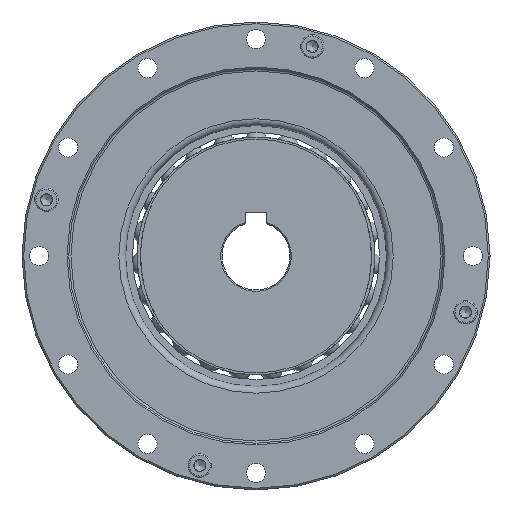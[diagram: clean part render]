
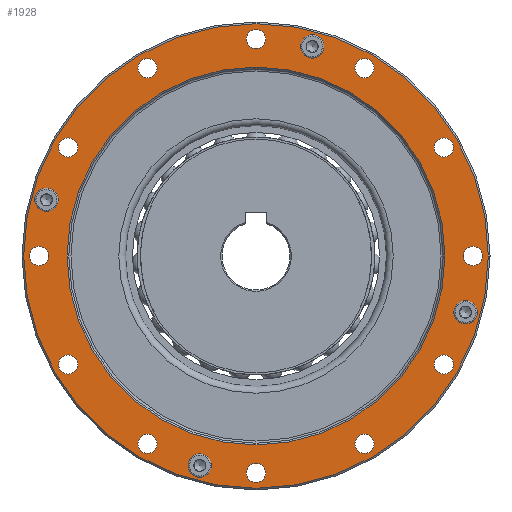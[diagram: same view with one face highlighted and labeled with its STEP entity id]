
A CAD part, left-side view. The second image highlights one B-rep face of the part: STEP entity #1928.
In plain terms, the highlighted planar face has unit normal (-1, 0, 0).
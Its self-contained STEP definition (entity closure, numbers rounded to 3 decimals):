
#1732=PLANE('',#9674);
#1928=ADVANCED_FACE('',(#2748,#2749,#2750,#2751,#2752,#2753,#2754,#2755,
#2756,#2757,#2758,#2759,#2760,#2761,#2762,#2763,#2764,#2765),#1732,.T.);
#2748=FACE_BOUND('',#3497,.T.);
#2749=FACE_BOUND('',#3498,.T.);
#2750=FACE_BOUND('',#3499,.T.);
#2751=FACE_BOUND('',#3500,.T.);
#2752=FACE_BOUND('',#3501,.T.);
#2753=FACE_BOUND('',#3502,.T.);
#2754=FACE_BOUND('',#3503,.T.);
#2755=FACE_BOUND('',#3504,.T.);
#2756=FACE_BOUND('',#3505,.T.);
#2757=FACE_BOUND('',#3506,.T.);
#2758=FACE_BOUND('',#3507,.T.);
#2759=FACE_BOUND('',#3508,.T.);
#2760=FACE_BOUND('',#3509,.T.);
#2761=FACE_BOUND('',#3510,.T.);
#2762=FACE_BOUND('',#3511,.T.);
#2763=FACE_BOUND('',#3512,.T.);
#2764=FACE_BOUND('',#3513,.T.);
#2765=FACE_BOUND('',#3514,.T.);
#3497=EDGE_LOOP('',(#4486));
#3498=EDGE_LOOP('',(#4487));
#3499=EDGE_LOOP('',(#4488));
#3500=EDGE_LOOP('',(#4489));
#3501=EDGE_LOOP('',(#4490));
#3502=EDGE_LOOP('',(#4491));
#3503=EDGE_LOOP('',(#4492));
#3504=EDGE_LOOP('',(#4493));
#3505=EDGE_LOOP('',(#4494));
#3506=EDGE_LOOP('',(#4495));
#3507=EDGE_LOOP('',(#4496));
#3508=EDGE_LOOP('',(#4497));
#3509=EDGE_LOOP('',(#4498));
#3510=EDGE_LOOP('',(#4499));
#3511=EDGE_LOOP('',(#4500));
#3512=EDGE_LOOP('',(#4501));
#3513=EDGE_LOOP('',(#4502));
#3514=EDGE_LOOP('',(#4503));
#4486=ORIENTED_EDGE('',*,*,#7651,.F.);
#4487=ORIENTED_EDGE('',*,*,#7652,.F.);
#4488=ORIENTED_EDGE('',*,*,#7653,.F.);
#4489=ORIENTED_EDGE('',*,*,#7654,.F.);
#4490=ORIENTED_EDGE('',*,*,#7655,.F.);
#4491=ORIENTED_EDGE('',*,*,#7656,.F.);
#4492=ORIENTED_EDGE('',*,*,#7657,.F.);
#4493=ORIENTED_EDGE('',*,*,#7658,.F.);
#4494=ORIENTED_EDGE('',*,*,#7659,.F.);
#4495=ORIENTED_EDGE('',*,*,#7660,.F.);
#4496=ORIENTED_EDGE('',*,*,#7661,.F.);
#4497=ORIENTED_EDGE('',*,*,#7662,.F.);
#4498=ORIENTED_EDGE('',*,*,#7663,.F.);
#4499=ORIENTED_EDGE('',*,*,#7664,.F.);
#4500=ORIENTED_EDGE('',*,*,#7665,.F.);
#4501=ORIENTED_EDGE('',*,*,#7666,.F.);
#4502=ORIENTED_EDGE('',*,*,#7667,.T.);
#4503=ORIENTED_EDGE('',*,*,#7668,.T.);
#6750=VERTEX_POINT('',#13596);
#6751=VERTEX_POINT('',#13598);
#6752=VERTEX_POINT('',#13600);
#6753=VERTEX_POINT('',#13602);
#6754=VERTEX_POINT('',#13604);
#6755=VERTEX_POINT('',#13606);
#6756=VERTEX_POINT('',#13608);
#6757=VERTEX_POINT('',#13610);
#6758=VERTEX_POINT('',#13612);
#6759=VERTEX_POINT('',#13614);
#6760=VERTEX_POINT('',#13616);
#6761=VERTEX_POINT('',#13618);
#6762=VERTEX_POINT('',#13620);
#6763=VERTEX_POINT('',#13622);
#6764=VERTEX_POINT('',#13624);
#6765=VERTEX_POINT('',#13626);
#6766=VERTEX_POINT('',#13628);
#6767=VERTEX_POINT('',#13630);
#7651=EDGE_CURVE('',#6750,#6750,#8879,.T.);
#7652=EDGE_CURVE('',#6751,#6751,#8880,.T.);
#7653=EDGE_CURVE('',#6752,#6752,#8881,.T.);
#7654=EDGE_CURVE('',#6753,#6753,#8882,.T.);
#7655=EDGE_CURVE('',#6754,#6754,#8883,.T.);
#7656=EDGE_CURVE('',#6755,#6755,#8884,.T.);
#7657=EDGE_CURVE('',#6756,#6756,#8885,.T.);
#7658=EDGE_CURVE('',#6757,#6757,#8886,.T.);
#7659=EDGE_CURVE('',#6758,#6758,#8887,.T.);
#7660=EDGE_CURVE('',#6759,#6759,#8888,.T.);
#7661=EDGE_CURVE('',#6760,#6760,#8889,.T.);
#7662=EDGE_CURVE('',#6761,#6761,#8890,.T.);
#7663=EDGE_CURVE('',#6762,#6762,#8891,.T.);
#7664=EDGE_CURVE('',#6763,#6763,#8892,.T.);
#7665=EDGE_CURVE('',#6764,#6764,#8893,.T.);
#7666=EDGE_CURVE('',#6765,#6765,#8894,.T.);
#7667=EDGE_CURVE('',#6766,#6766,#8895,.T.);
#7668=EDGE_CURVE('',#6767,#6767,#8896,.T.);
#8879=CIRCLE('',#9656,1.75);
#8880=CIRCLE('',#9657,1.75);
#8881=CIRCLE('',#9658,1.75);
#8882=CIRCLE('',#9659,1.75);
#8883=CIRCLE('',#9660,2.25);
#8884=CIRCLE('',#9661,2.25);
#8885=CIRCLE('',#9662,2.25);
#8886=CIRCLE('',#9663,2.25);
#8887=CIRCLE('',#9664,2.25);
#8888=CIRCLE('',#9665,2.25);
#8889=CIRCLE('',#9666,2.25);
#8890=CIRCLE('',#9667,2.25);
#8891=CIRCLE('',#9668,2.25);
#8892=CIRCLE('',#9669,2.25);
#8893=CIRCLE('',#9670,2.25);
#8894=CIRCLE('',#9671,2.25);
#8895=CIRCLE('',#9672,44.4);
#8896=CIRCLE('',#9673,54.6);
#9656=AXIS2_PLACEMENT_3D('',#13595,#10940,#10941);
#9657=AXIS2_PLACEMENT_3D('',#13597,#10942,#10943);
#9658=AXIS2_PLACEMENT_3D('',#13599,#10944,#10945);
#9659=AXIS2_PLACEMENT_3D('',#13601,#10946,#10947);
#9660=AXIS2_PLACEMENT_3D('',#13603,#10948,#10949);
#9661=AXIS2_PLACEMENT_3D('',#13605,#10950,#10951);
#9662=AXIS2_PLACEMENT_3D('',#13607,#10952,#10953);
#9663=AXIS2_PLACEMENT_3D('',#13609,#10954,#10955);
#9664=AXIS2_PLACEMENT_3D('',#13611,#10956,#10957);
#9665=AXIS2_PLACEMENT_3D('',#13613,#10958,#10959);
#9666=AXIS2_PLACEMENT_3D('',#13615,#10960,#10961);
#9667=AXIS2_PLACEMENT_3D('',#13617,#10962,#10963);
#9668=AXIS2_PLACEMENT_3D('',#13619,#10964,#10965);
#9669=AXIS2_PLACEMENT_3D('',#13621,#10966,#10967);
#9670=AXIS2_PLACEMENT_3D('',#13623,#10968,#10969);
#9671=AXIS2_PLACEMENT_3D('',#13625,#10970,#10971);
#9672=AXIS2_PLACEMENT_3D('',#13627,#10972,#10973);
#9673=AXIS2_PLACEMENT_3D('',#13629,#10974,#10975);
#9674=AXIS2_PLACEMENT_3D('',#13631,#10976,#10977);
#10940=DIRECTION('',(-1.,0.,0.));
#10941=DIRECTION('',(0.,0.5,0.866));
#10942=DIRECTION('',(-1.,0.,0.));
#10943=DIRECTION('',(0.,0.5,0.866));
#10944=DIRECTION('',(-1.,0.,0.));
#10945=DIRECTION('',(0.,0.5,0.866));
#10946=DIRECTION('',(-1.,0.,0.));
#10947=DIRECTION('',(0.,0.5,0.866));
#10948=DIRECTION('',(-1.,0.,0.));
#10949=DIRECTION('',(0.,0.5,0.866));
#10950=DIRECTION('',(-1.,0.,0.));
#10951=DIRECTION('',(0.,0.5,0.866));
#10952=DIRECTION('',(-1.,0.,0.));
#10953=DIRECTION('',(0.,0.5,0.866));
#10954=DIRECTION('',(-1.,0.,0.));
#10955=DIRECTION('',(0.,0.5,0.866));
#10956=DIRECTION('',(-1.,0.,0.));
#10957=DIRECTION('',(0.,0.5,0.866));
#10958=DIRECTION('',(-1.,0.,0.));
#10959=DIRECTION('',(0.,0.5,0.866));
#10960=DIRECTION('',(-1.,0.,0.));
#10961=DIRECTION('',(0.,0.5,0.866));
#10962=DIRECTION('',(-1.,0.,0.));
#10963=DIRECTION('',(0.,0.5,0.866));
#10964=DIRECTION('',(-1.,0.,0.));
#10965=DIRECTION('',(0.,0.5,0.866));
#10966=DIRECTION('',(-1.,0.,0.));
#10967=DIRECTION('',(0.,0.5,0.866));
#10968=DIRECTION('',(-1.,0.,0.));
#10969=DIRECTION('',(0.,0.5,0.866));
#10970=DIRECTION('',(-1.,0.,0.));
#10971=DIRECTION('',(0.,0.5,0.866));
#10972=DIRECTION('',(1.,0.,0.));
#10973=DIRECTION('',(0.,0.5,0.866));
#10974=DIRECTION('',(-1.,0.,0.));
#10975=DIRECTION('',(0.,0.5,0.866));
#10976=DIRECTION('',(-1.,0.,0.));
#10977=DIRECTION('',(0.,0.5,0.866));
#13595=CARTESIAN_POINT('',(-34.,13.2,-49.262));
#13596=CARTESIAN_POINT('',(-34.,14.075,-47.747));
#13597=CARTESIAN_POINT('',(-34.,-49.262,-13.2));
#13598=CARTESIAN_POINT('',(-34.,-48.387,-11.684));
#13599=CARTESIAN_POINT('',(-34.,-13.2,49.262));
#13600=CARTESIAN_POINT('',(-34.,-12.325,50.778));
#13601=CARTESIAN_POINT('',(-34.,49.262,13.2));
#13602=CARTESIAN_POINT('',(-34.,50.137,14.715));
#13603=CARTESIAN_POINT('',(-34.,25.5,-44.167));
#13604=CARTESIAN_POINT('',(-34.,26.625,-42.219));
#13605=CARTESIAN_POINT('',(-34.,0.,-51.));
#13606=CARTESIAN_POINT('',(-34.,1.125,-49.051));
#13607=CARTESIAN_POINT('',(-34.,-25.5,-44.167));
#13608=CARTESIAN_POINT('',(-34.,-24.375,-42.219));
#13609=CARTESIAN_POINT('',(-34.,-44.167,-25.5));
#13610=CARTESIAN_POINT('',(-34.,-43.042,-23.551));
#13611=CARTESIAN_POINT('',(-34.,-51.,0.));
#13612=CARTESIAN_POINT('',(-34.,-49.875,1.949));
#13613=CARTESIAN_POINT('',(-34.,-44.167,25.5));
#13614=CARTESIAN_POINT('',(-34.,-43.042,27.449));
#13615=CARTESIAN_POINT('',(-34.,-25.5,44.167));
#13616=CARTESIAN_POINT('',(-34.,-24.375,46.116));
#13617=CARTESIAN_POINT('',(-34.,0.,51.));
#13618=CARTESIAN_POINT('',(-34.,1.125,52.949));
#13619=CARTESIAN_POINT('',(-34.,25.5,44.167));
#13620=CARTESIAN_POINT('',(-34.,26.625,46.116));
#13621=CARTESIAN_POINT('',(-34.,44.167,25.5));
#13622=CARTESIAN_POINT('',(-34.,45.292,27.449));
#13623=CARTESIAN_POINT('',(-34.,51.,0.));
#13624=CARTESIAN_POINT('',(-34.,52.125,1.949));
#13625=CARTESIAN_POINT('',(-34.,44.167,-25.5));
#13626=CARTESIAN_POINT('',(-34.,45.292,-23.551));
#13627=CARTESIAN_POINT('',(-34.,0.,0.));
#13628=CARTESIAN_POINT('',(-34.,22.2,38.452));
#13629=CARTESIAN_POINT('',(-34.,0.,0.));
#13630=CARTESIAN_POINT('',(-34.,27.3,47.285));
#13631=CARTESIAN_POINT('',(-34.,38.105,-22.));
